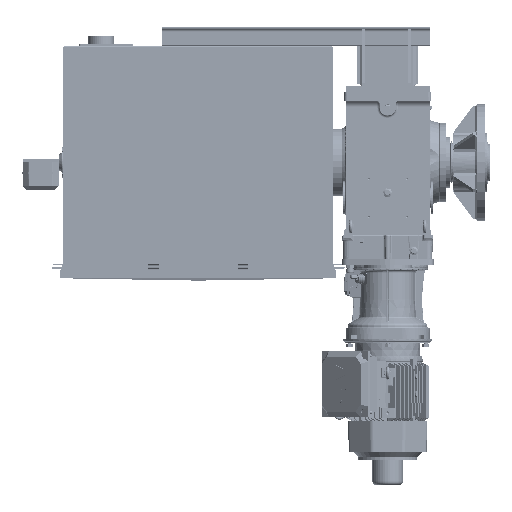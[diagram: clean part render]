
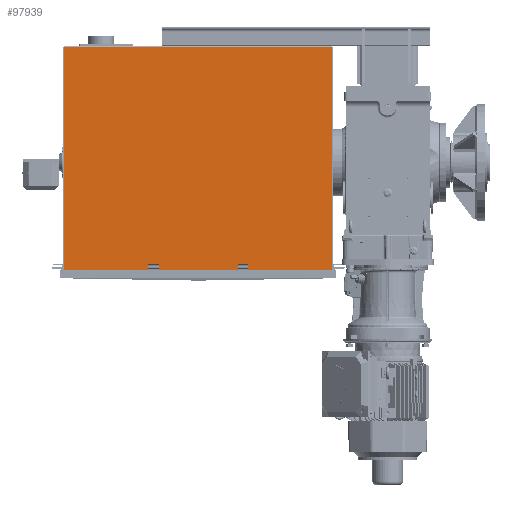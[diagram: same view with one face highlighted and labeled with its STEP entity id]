
A CAD part, top view. The second image highlights one B-rep face of the part: STEP entity #97939.
In plain terms, the highlighted planar face has unit normal (0, 0, 1).
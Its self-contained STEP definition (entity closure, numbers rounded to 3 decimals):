
#4083=LINE('',#149812,#11143);
#4100=LINE('',#149857,#11160);
#4102=LINE('',#149861,#11162);
#4103=LINE('',#149863,#11163);
#4104=LINE('',#149872,#11164);
#4121=LINE('',#149917,#11181);
#4123=LINE('',#149921,#11183);
#4124=LINE('',#149923,#11184);
#4566=LINE('',#151352,#11626);
#4569=LINE('',#151358,#11629);
#4572=LINE('',#151365,#11632);
#4575=LINE('',#151369,#11635);
#4581=LINE('',#151381,#11641);
#4583=LINE('',#151385,#11643);
#4585=LINE('',#151388,#11645);
#4586=LINE('',#151391,#11646);
#4587=LINE('',#151393,#11647);
#4588=LINE('',#151394,#11648);
#4589=LINE('',#151396,#11649);
#4590=LINE('',#151397,#11650);
#11143=VECTOR('',#118474,40.);
#11160=VECTOR('',#118517,40.);
#11162=VECTOR('',#118521,40.);
#11163=VECTOR('',#118524,40.);
#11164=VECTOR('',#118533,40.);
#11181=VECTOR('',#118576,40.);
#11183=VECTOR('',#118580,40.);
#11184=VECTOR('',#118583,40.);
#11626=VECTOR('',#120045,945.);
#11629=VECTOR('',#120050,0.992);
#11632=VECTOR('',#120055,2.976);
#11635=VECTOR('',#120060,1.984);
#11641=VECTOR('',#120070,2.976);
#11643=VECTOR('',#120074,0.992);
#11645=VECTOR('',#120078,1.984);
#11646=VECTOR('',#120081,51.016);
#11647=VECTOR('',#120082,894.016);
#11648=VECTOR('',#120083,1051.);
#11649=VECTOR('',#120084,894.016);
#11650=VECTOR('',#120085,51.016);
#18487=PLANE('',#104709);
#20629=FACE_BOUND('',#29507,.T.);
#20630=FACE_BOUND('',#29508,.T.);
#23458=FACE_OUTER_BOUND('',#29506,.T.);
#29506=EDGE_LOOP('',(#72168,#72169,#72170,#72171,#72172,#72173,#72174,#72175,
#72176,#72177,#72178,#72179));
#29507=EDGE_LOOP('',(#72180,#72181,#72182,#72183));
#29508=EDGE_LOOP('',(#72184,#72185,#72186,#72187));
#42753=VERTEX_POINT('',#149810);
#42754=VERTEX_POINT('',#149811);
#42769=VERTEX_POINT('',#149855);
#42770=VERTEX_POINT('',#149859);
#42773=VERTEX_POINT('',#149870);
#42774=VERTEX_POINT('',#149871);
#42789=VERTEX_POINT('',#149915);
#42790=VERTEX_POINT('',#149919);
#43172=VERTEX_POINT('',#151063);
#43258=VERTEX_POINT('',#151344);
#43259=VERTEX_POINT('',#151348);
#43261=VERTEX_POINT('',#151356);
#43263=VERTEX_POINT('',#151362);
#43264=VERTEX_POINT('',#151364);
#43267=VERTEX_POINT('',#151378);
#43268=VERTEX_POINT('',#151380);
#43269=VERTEX_POINT('',#151384);
#43270=VERTEX_POINT('',#151390);
#43271=VERTEX_POINT('',#151392);
#43272=VERTEX_POINT('',#151395);
#53219=EDGE_CURVE('',#42753,#42754,#4083,.T.);
#53242=EDGE_CURVE('',#42754,#42769,#4100,.T.);
#53244=EDGE_CURVE('',#42770,#42753,#4102,.T.);
#53245=EDGE_CURVE('',#42769,#42770,#4103,.T.);
#53248=EDGE_CURVE('',#42773,#42774,#4104,.T.);
#53271=EDGE_CURVE('',#42774,#42789,#4121,.T.);
#53273=EDGE_CURVE('',#42790,#42773,#4123,.T.);
#53274=EDGE_CURVE('',#42789,#42790,#4124,.T.);
#53952=EDGE_CURVE('',#43258,#43259,#4566,.T.);
#53955=EDGE_CURVE('',#43259,#43261,#4569,.T.);
#53958=EDGE_CURVE('',#43264,#43263,#4572,.T.);
#53961=EDGE_CURVE('',#43261,#43264,#4575,.T.);
#53967=EDGE_CURVE('',#43268,#43267,#4581,.T.);
#53969=EDGE_CURVE('',#43269,#43258,#4583,.T.);
#53971=EDGE_CURVE('',#43267,#43269,#4585,.T.);
#53972=EDGE_CURVE('',#43270,#43263,#4586,.T.);
#53973=EDGE_CURVE('',#43271,#43270,#4587,.T.);
#53974=EDGE_CURVE('',#43271,#43172,#4588,.T.);
#53975=EDGE_CURVE('',#43272,#43172,#4589,.T.);
#53976=EDGE_CURVE('',#43268,#43272,#4590,.T.);
#72168=ORIENTED_EDGE('',*,*,#53958,.T.);
#72169=ORIENTED_EDGE('',*,*,#53972,.F.);
#72170=ORIENTED_EDGE('',*,*,#53973,.F.);
#72171=ORIENTED_EDGE('',*,*,#53974,.T.);
#72172=ORIENTED_EDGE('',*,*,#53975,.F.);
#72173=ORIENTED_EDGE('',*,*,#53976,.F.);
#72174=ORIENTED_EDGE('',*,*,#53967,.T.);
#72175=ORIENTED_EDGE('',*,*,#53971,.T.);
#72176=ORIENTED_EDGE('',*,*,#53969,.T.);
#72177=ORIENTED_EDGE('',*,*,#53952,.T.);
#72178=ORIENTED_EDGE('',*,*,#53955,.T.);
#72179=ORIENTED_EDGE('',*,*,#53961,.T.);
#72180=ORIENTED_EDGE('',*,*,#53219,.T.);
#72181=ORIENTED_EDGE('',*,*,#53242,.T.);
#72182=ORIENTED_EDGE('',*,*,#53245,.T.);
#72183=ORIENTED_EDGE('',*,*,#53244,.T.);
#72184=ORIENTED_EDGE('',*,*,#53248,.T.);
#72185=ORIENTED_EDGE('',*,*,#53271,.T.);
#72186=ORIENTED_EDGE('',*,*,#53274,.T.);
#72187=ORIENTED_EDGE('',*,*,#53273,.T.);
#97939=ADVANCED_FACE('',(#23458,#20629,#20630),#18487,.F.);
#104709=AXIS2_PLACEMENT_3D('',#151389,#120079,#120080);
#118474=DIRECTION('',(0.,1.,0.));
#118517=DIRECTION('',(1.,0.,0.));
#118521=DIRECTION('',(-1.,0.,0.));
#118524=DIRECTION('',(0.,-1.,0.));
#118533=DIRECTION('',(0.,1.,0.));
#118576=DIRECTION('',(1.,0.,0.));
#118580=DIRECTION('',(-1.,0.,0.));
#118583=DIRECTION('',(0.,-1.,0.));
#120045=DIRECTION('',(1.,0.,0.));
#120050=DIRECTION('',(0.,1.,0.));
#120055=DIRECTION('',(0.,-1.,0.));
#120060=DIRECTION('',(1.,0.,0.));
#120070=DIRECTION('',(0.,1.,0.));
#120074=DIRECTION('',(0.,-1.,0.));
#120078=DIRECTION('',(1.,0.,0.));
#120079=DIRECTION('center_axis',(0.,0.,
-1.));
#120080=DIRECTION('ref_axis',(1.,0.,0.));
#120081=DIRECTION('',(-1.,0.,0.));
#120082=DIRECTION('',(0.,-1.,0.));
#120083=DIRECTION('',(-1.,0.,0.));
#120084=DIRECTION('',(0.,1.,0.));
#120085=DIRECTION('',(-1.,0.,0.));
#149810=CARTESIAN_POINT('',(-1065.982,-646.817,872.238));
#149811=CARTESIAN_POINT('',(-1065.982,-606.817,872.238));
#149812=CARTESIAN_POINT('',(-1065.982,-409.737,872.238));
#149855=CARTESIAN_POINT('',(-1025.982,-606.817,872.238));
#149857=CARTESIAN_POINT('',(-958.482,-606.817,872.238));
#149859=CARTESIAN_POINT('',(-1025.982,-646.817,872.238));
#149861=CARTESIAN_POINT('',(-958.482,-646.817,872.238));
#149863=CARTESIAN_POINT('',(-1025.982,-409.737,872.238));
#149870=CARTESIAN_POINT('',(-715.982,-646.817,872.238));
#149871=CARTESIAN_POINT('',(-715.982,-606.817,872.238));
#149872=CARTESIAN_POINT('',(-715.982,-409.737,872.238));
#149915=CARTESIAN_POINT('',(-675.982,-606.817,872.238));
#149917=CARTESIAN_POINT('',(-783.482,-606.817,872.238));
#149919=CARTESIAN_POINT('',(-675.982,-646.817,872.238));
#149921=CARTESIAN_POINT('',(-783.482,-646.817,872.238));
#149923=CARTESIAN_POINT('',(-675.982,-409.737,872.238));
#151063=CARTESIAN_POINT('',(-1396.482,241.483,872.238));
#151344=CARTESIAN_POINT('',(-1343.482,-650.55,872.238));
#151348=CARTESIAN_POINT('',(-398.482,-650.55,872.238));
#151352=CARTESIAN_POINT('',(-634.732,-650.55,872.238));
#151356=CARTESIAN_POINT('',(-398.482,-649.558,872.238));
#151358=CARTESIAN_POINT('',(-398.482,-425.17,872.238));
#151362=CARTESIAN_POINT('',(-396.499,-652.534,872.238));
#151364=CARTESIAN_POINT('',(-396.499,-649.558,872.238));
#151365=CARTESIAN_POINT('',(-396.499,-426.658,872.238));
#151369=CARTESIAN_POINT('',(-633.74,-649.558,872.238));
#151378=CARTESIAN_POINT('',(-1345.466,-649.558,872.238));
#151380=CARTESIAN_POINT('',(-1345.466,-652.534,872.238));
#151381=CARTESIAN_POINT('',(-1345.466,-425.17,872.238));
#151384=CARTESIAN_POINT('',(-1343.482,-649.558,872.238));
#151385=CARTESIAN_POINT('',(-1343.482,-426.658,872.238));
#151388=CARTESIAN_POINT('',(-1107.232,-649.558,872.238));
#151389=CARTESIAN_POINT('Origin',(-870.982,-200.782,872.238));
#151390=CARTESIAN_POINT('',(-345.482,-652.534,872.238));
#151391=CARTESIAN_POINT('',(-345.482,-652.534,872.238));
#151392=CARTESIAN_POINT('',(-345.482,241.483,872.238));
#151393=CARTESIAN_POINT('',(-345.482,241.483,872.238));
#151394=CARTESIAN_POINT('',(-870.982,241.483,872.238));
#151395=CARTESIAN_POINT('',(-1396.482,-652.534,872.238));
#151396=CARTESIAN_POINT('',(-1396.482,250.457,872.238));
#151397=CARTESIAN_POINT('',(-345.482,-652.534,872.238));
